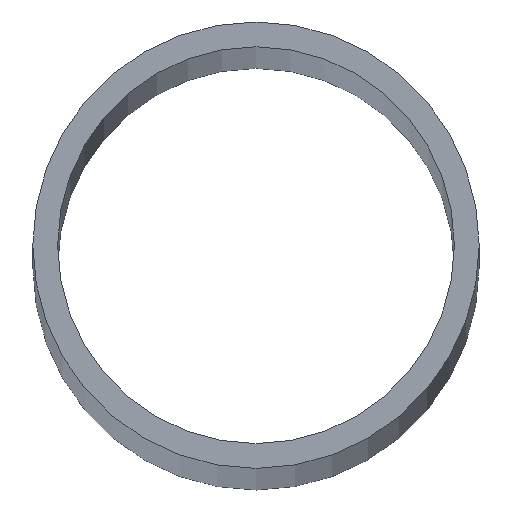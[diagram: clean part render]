
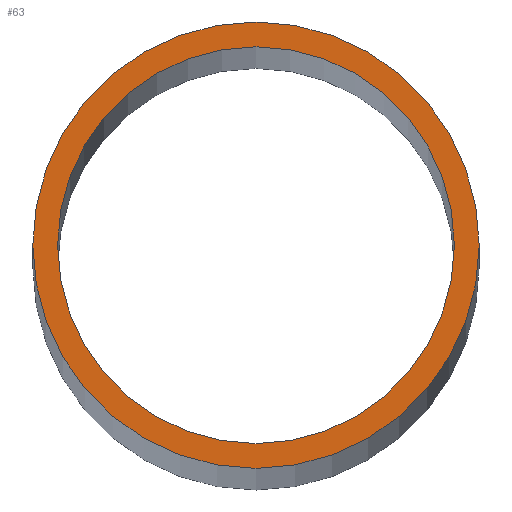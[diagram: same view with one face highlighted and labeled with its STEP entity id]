
A CAD part, top view. The second image highlights one B-rep face of the part: STEP entity #63.
In plain terms, the highlighted planar face has unit normal (0, 0, 1).
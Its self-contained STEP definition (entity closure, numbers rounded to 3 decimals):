
#15=FACE_BOUND('',#26,.T.);
#17=PLANE('',#94);
#21=FACE_OUTER_BOUND('',#25,.T.);
#25=EDGE_LOOP('',(#55));
#26=EDGE_LOOP('',(#56));
#34=CIRCLE('',#90,8.);
#35=CIRCLE('',#92,9.);
#38=VERTEX_POINT('',#120);
#39=VERTEX_POINT('',#124);
#43=EDGE_CURVE('',#38,#38,#34,.T.);
#44=EDGE_CURVE('',#39,#39,#35,.T.);
#55=ORIENTED_EDGE('',*,*,#44,.F.);
#56=ORIENTED_EDGE('',*,*,#43,.T.);
#63=ADVANCED_FACE('',(#21,#15),#17,.F.);
#90=AXIS2_PLACEMENT_3D('',#122,#103,#104);
#92=AXIS2_PLACEMENT_3D('',#125,#107,#108);
#94=AXIS2_PLACEMENT_3D('',#129,#112,#113);
#103=DIRECTION('center_axis',(0.,0.,-1.));
#104=DIRECTION('ref_axis',(-1.,0.,0.));
#107=DIRECTION('center_axis',(0.,0.,-1.));
#108=DIRECTION('ref_axis',(-1.,0.,0.));
#112=DIRECTION('center_axis',(0.,0.,-1.));
#113=DIRECTION('ref_axis',(-1.,0.,0.));
#120=CARTESIAN_POINT('',(8.,0.,500.));
#122=CARTESIAN_POINT('Origin',(0.,0.,500.));
#124=CARTESIAN_POINT('',(9.,0.,500.));
#125=CARTESIAN_POINT('Origin',(0.,0.,500.));
#129=CARTESIAN_POINT('Origin',(0.,0.,500.));
